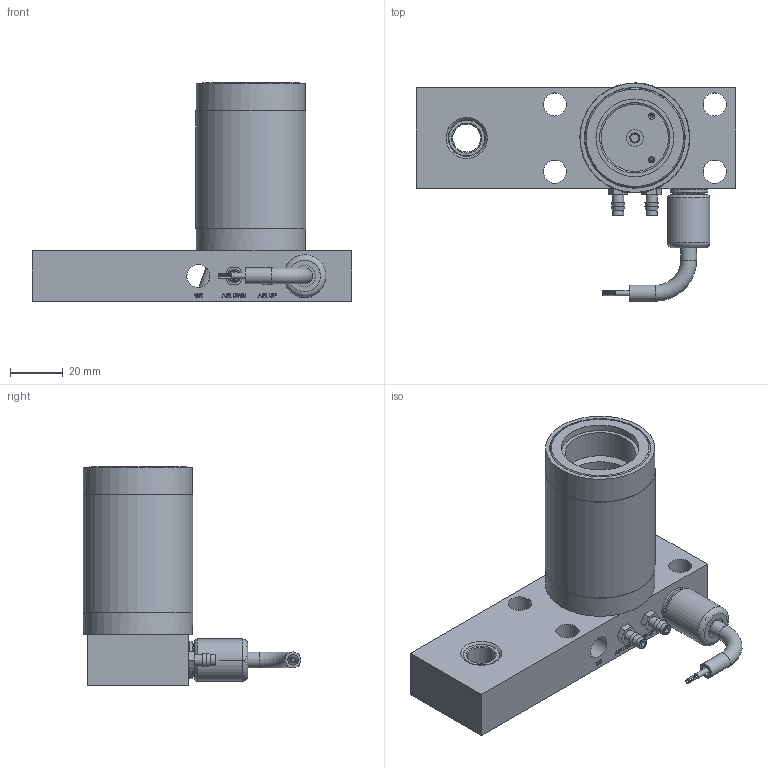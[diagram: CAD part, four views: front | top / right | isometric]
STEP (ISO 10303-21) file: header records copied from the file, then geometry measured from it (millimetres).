
FILE_DESCRIPTION(/* description */ ('ASSY,BODY,VF,LVDT,SXJR4,NHP'),/* implementation_level */ '2;1');
FILE_NAME(/* name */ 'C:\LVDT UPDATES\ASSY,BODY,VF,LVDT,SXJR4,NHP_0000843875.stp',/* time_stamp */ '2017-07-10T19:23:13-04:00',/* author */ ('tim.mcwilliams'),/* organization */ (''),/* preprocessor_version */ 'ST-DEVELOPER v16.5',/* originating_system */ 'Autodesk Inventor 2017',/* authorisation */ '');
FILE_SCHEMA (('AUTOMOTIVE_DESIGN { 1 0 10303 214 3 1 1 }'));
Length unit declared in the file: millimetre
Products named in the file (1): ASSY,BODY,VF,LVDT,SXJR4,NHP
Bounding box: 120.65 x 82.34 x 82.55 mm (x, y, z)
Volume: 143853.5 mm3; surface area: 61526.6 mm2
Topology: 3 solids, 8 shells, 1259 faces, 3277 edges, 2166 vertices
Faces by surface type: plane 635, bspline 413, cylinder 139, cone 58, torus 14
Full cylindrical faces by diameter (mm): 0.5 x4, 0.55 x4, 2 x1, 2.381 x4, 3.15 x2, 3.175 x4, 3.81 x1, 3.962 x3, 4 x3, 4.216 x4, 4.763 x3, 6 x3, 6.35 x1, 8 x1, 8.731 x8, 10 x1, 10.592 x1, 12.01 x1, 12.141 x1, 12.7 x2, 13.665 x1, 13.716 x1, 14 x2, 15.206 x1, 16 x1, 25.425 x1, 26.591 x1, 29.369 x1, 35.103 x3, 37.846 x4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
Entity records: 94088 total; most frequent: CARTESIAN_POINT 65040, ORIENTED_EDGE 6196, DIRECTION 4446, EDGE_CURVE 3097, VERTEX_POINT 2106, LINE 1828, VECTOR 1828, EDGE_LOOP 1545
